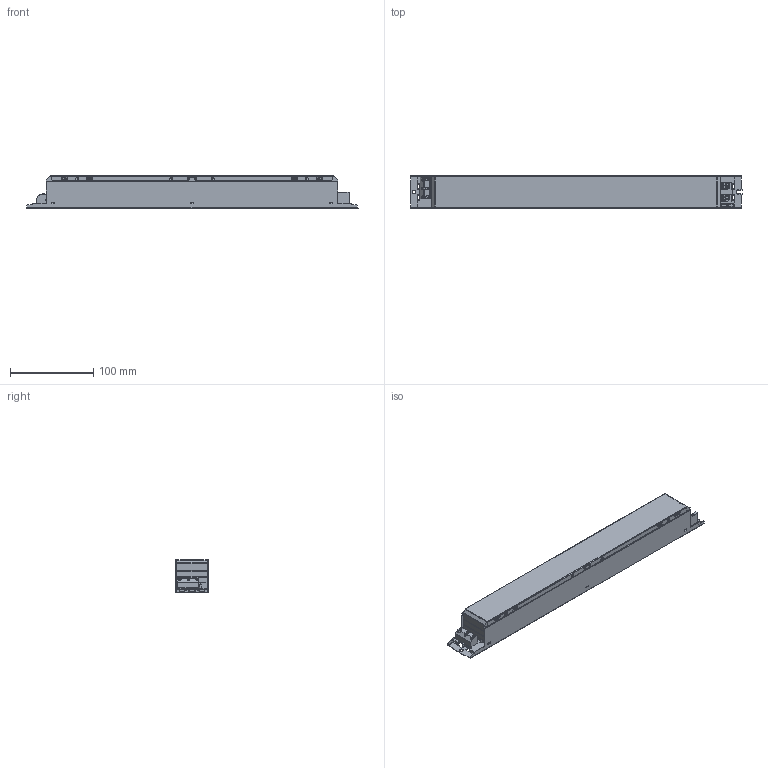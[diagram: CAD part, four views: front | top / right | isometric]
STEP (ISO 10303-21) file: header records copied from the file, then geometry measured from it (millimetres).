
FILE_DESCRIPTION (( 'STEP AP214' ), '1' );
FILE_NAME ('3984433swm000.step', '2019-10-08T13:25:12', ( 'OSRAM' ), ( 'OSRAM' ), 'SwSTEP 2.0', 'SolidWorks 2017', '' );
FILE_SCHEMA (( 'AUTOMOTIVE_DESIGN' ));
Length unit declared in the file: millimetre
Products named in the file (1): 3984433swm000
Bounding box: 399 x 39 x 39.5 mm (x, y, z)
Volume: 521141.6 mm3; surface area: 126843.7 mm2
Topology: 1 solids, 1 shells, 1823 faces, 5023 edges, 3131 vertices
Faces by surface type: plane 1134, cylinder 528, bspline 80, sphere 52, cone 29
Entity records: 78915 total; most frequent: CARTESIAN_POINT 13958, ORIENTED_EDGE 9998, DIRECTION 8802, EDGE_CURVE 4999, LINE 3502, VECTOR 3502, VERTEX_POINT 3131, AXIS2_PLACEMENT_3D 2650
